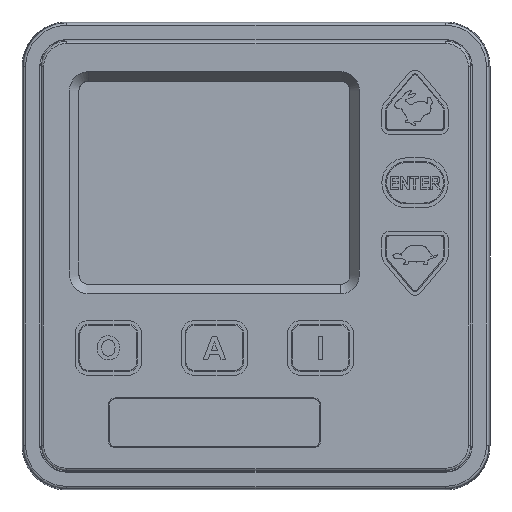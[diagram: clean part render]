
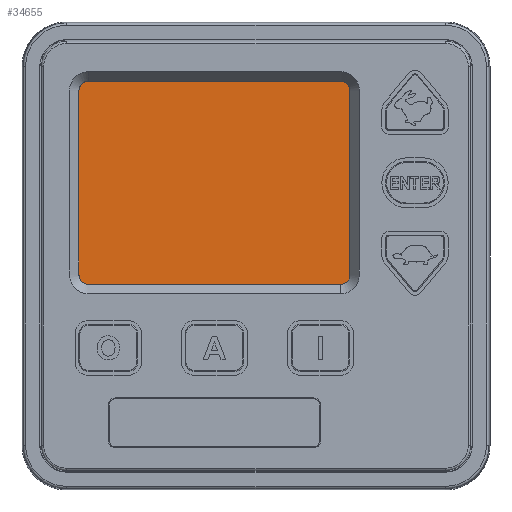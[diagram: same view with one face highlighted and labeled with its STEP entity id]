
A CAD part, top view. The second image highlights one B-rep face of the part: STEP entity #34655.
In plain terms, the highlighted planar face has unit normal (0, 0, 1).
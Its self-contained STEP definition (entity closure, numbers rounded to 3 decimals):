
#885 = CIRCLE ( 'NONE', #24714, 7.3 ) ;
#1305 = CARTESIAN_POINT ( 'NONE',  ( -42.932, -4.068, 11.45 ) ) ;
#2484 = VERTEX_POINT ( 'NONE', #21045 ) ;
#2487 = CARTESIAN_POINT ( 'NONE',  ( -35.632, -4.068, 11.45 ) ) ;
#4380 = ORIENTED_EDGE ( 'NONE', *, *, #31885, .T. ) ;
#4996 = EDGE_LOOP ( 'NONE', ( #12382, #4380, #16029, #42836, #26457, #12757, #48006, #26218 ) ) ;
#5059 = VERTEX_POINT ( 'NONE', #12029 ) ;
#6437 = VERTEX_POINT ( 'NONE', #44432 ) ;
#6474 = CARTESIAN_POINT ( 'NONE',  ( 25.268, 35.132, 11.45 ) ) ;
#7842 = EDGE_CURVE ( 'NONE', #50953, #55720, #885, .T. ) ;
#8378 = DIRECTION ( 'NONE',  ( 0., 0., 1. ) ) ;
#9375 = FACE_OUTER_BOUND ( 'NONE', #4996, .T. ) ;
#9849 = VECTOR ( 'NONE', #15631, 1000. ) ;
#10495 = DIRECTION ( 'NONE',  ( 0., 1., 0. ) ) ;
#11805 = DIRECTION ( 'NONE',  ( -1., 0., 0. ) ) ;
#11843 = DIRECTION ( 'NONE',  ( 1., 0., 0. ) ) ;
#12029 = CARTESIAN_POINT ( 'NONE',  ( 17.968, -11.368, 11.45 ) ) ;
#12382 = ORIENTED_EDGE ( 'NONE', *, *, #60842, .T. ) ;
#12757 = ORIENTED_EDGE ( 'NONE', *, *, #59242, .T. ) ;
#13986 = CIRCLE ( 'NONE', #56887, 7.3 ) ;
#15631 = DIRECTION ( 'NONE',  ( 1., 0., 0. ) ) ;
#16028 = DIRECTION ( 'NONE',  ( 0., 0., 1. ) ) ;
#16029 = ORIENTED_EDGE ( 'NONE', *, *, #21307, .T. ) ;
#16261 = DIRECTION ( 'NONE',  ( 1., 0., 0. ) ) ;
#18667 = DIRECTION ( 'NONE',  ( 0., 0., 1. ) ) ;
#21045 = CARTESIAN_POINT ( 'NONE',  ( 25.268, 35.132, 11.45 ) ) ;
#21307 = EDGE_CURVE ( 'NONE', #50138, #43641, #13986, .T. ) ;
#22544 = AXIS2_PLACEMENT_3D ( 'NONE', #27462, #33675, #52773 ) ;
#23027 = CIRCLE ( 'NONE', #59929, 7.3 ) ;
#24274 = LINE ( 'NONE', #48622, #27485 ) ;
#24714 = AXIS2_PLACEMENT_3D ( 'NONE', #2487, #8378, #11843 ) ;
#26218 = ORIENTED_EDGE ( 'NONE', *, *, #38457, .T. ) ;
#26457 = ORIENTED_EDGE ( 'NONE', *, *, #7842, .T. ) ;
#27462 = CARTESIAN_POINT ( 'NONE',  ( 17.968, -4.068, 11.45 ) ) ;
#27485 = VECTOR ( 'NONE', #53626, 1000. ) ;
#30044 = CARTESIAN_POINT ( 'NONE',  ( 17.968, 35.132, 11.45 ) ) ;
#31885 = EDGE_CURVE ( 'NONE', #6437, #50138, #41218, .T. ) ;
#33675 = DIRECTION ( 'NONE',  ( 0., 0., 1. ) ) ;
#33938 = DIRECTION ( 'NONE',  ( 1., 0., 0. ) ) ;
#34407 = LINE ( 'NONE', #44123, #9849 ) ;
#34430 = CARTESIAN_POINT ( 'NONE',  ( 25.268, -4.068, 11.45 ) ) ;
#34655 = ADVANCED_FACE ( 'NONE', ( #9375 ), #43470, .T. ) ;
#35726 = VERTEX_POINT ( 'NONE', #34430 ) ;
#36509 = CARTESIAN_POINT ( 'NONE',  ( 17.968, 42.432, 11.45 ) ) ;
#37082 = AXIS2_PLACEMENT_3D ( 'NONE', #30044, #54420, #16261 ) ;
#37401 = EDGE_CURVE ( 'NONE', #5059, #35726, #58430, .T. ) ;
#38457 = EDGE_CURVE ( 'NONE', #35726, #2484, #53687, .T. ) ;
#38575 = VECTOR ( 'NONE', #10495, 1000. ) ;
#41218 = LINE ( 'NONE', #36509, #46790 ) ;
#42836 = ORIENTED_EDGE ( 'NONE', *, *, #53104, .T. ) ;
#43470 = PLANE ( 'NONE',  #37082 ) ;
#43641 = VERTEX_POINT ( 'NONE', #54459 ) ;
#44123 = CARTESIAN_POINT ( 'NONE',  ( -35.632, -11.368, 11.45 ) ) ;
#44432 = CARTESIAN_POINT ( 'NONE',  ( 17.968, 42.432, 11.45 ) ) ;
#46790 = VECTOR ( 'NONE', #11805, 1000. ) ;
#48006 = ORIENTED_EDGE ( 'NONE', *, *, #37401, .T. ) ;
#48622 = CARTESIAN_POINT ( 'NONE',  ( -42.932, 35.132, 11.45 ) ) ;
#50138 = VERTEX_POINT ( 'NONE', #61453 ) ;
#50953 = VERTEX_POINT ( 'NONE', #1305 ) ;
#52773 = DIRECTION ( 'NONE',  ( 1., 0., 0. ) ) ;
#53104 = EDGE_CURVE ( 'NONE', #43641, #50953, #24274, .T. ) ;
#53626 = DIRECTION ( 'NONE',  ( 0., -1., 0. ) ) ;
#53687 = LINE ( 'NONE', #6474, #38575 ) ;
#54420 = DIRECTION ( 'NONE',  ( 0., 0., 1. ) ) ;
#54459 = CARTESIAN_POINT ( 'NONE',  ( -42.932, 35.132, 11.45 ) ) ;
#55720 = VERTEX_POINT ( 'NONE', #58646 ) ;
#55929 = DIRECTION ( 'NONE',  ( 1., 0., 0. ) ) ;
#56224 = CARTESIAN_POINT ( 'NONE',  ( 17.968, 35.132, 11.45 ) ) ;
#56887 = AXIS2_PLACEMENT_3D ( 'NONE', #57391, #16028, #33938 ) ;
#57391 = CARTESIAN_POINT ( 'NONE',  ( -35.632, 35.132, 11.45 ) ) ;
#58430 = CIRCLE ( 'NONE', #22544, 7.3 ) ;
#58646 = CARTESIAN_POINT ( 'NONE',  ( -35.632, -11.368, 11.45 ) ) ;
#59242 = EDGE_CURVE ( 'NONE', #55720, #5059, #34407, .T. ) ;
#59929 = AXIS2_PLACEMENT_3D ( 'NONE', #56224, #18667, #55929 ) ;
#60842 = EDGE_CURVE ( 'NONE', #2484, #6437, #23027, .T. ) ;
#61453 = CARTESIAN_POINT ( 'NONE',  ( -35.632, 42.432, 11.45 ) ) ;
